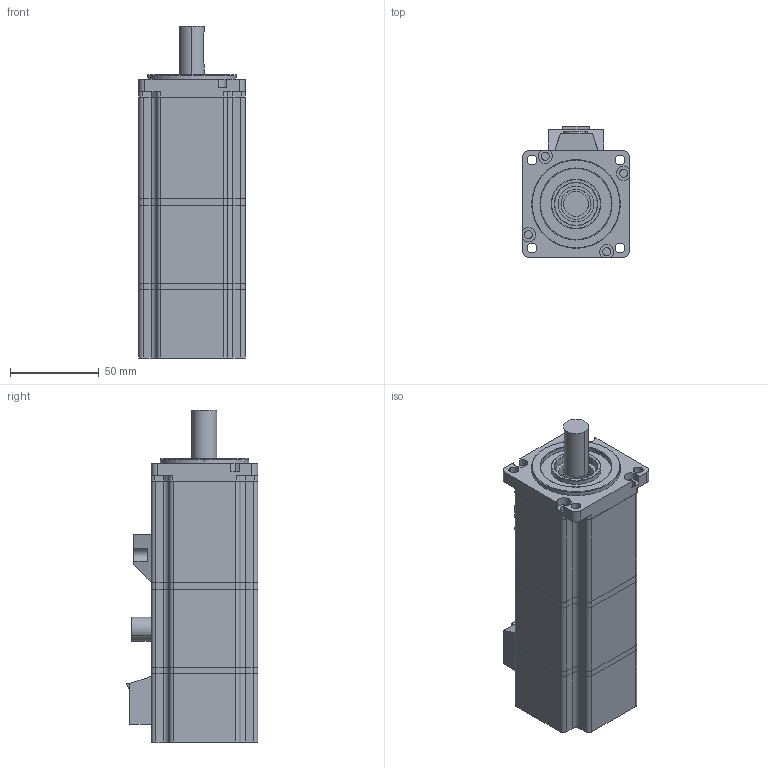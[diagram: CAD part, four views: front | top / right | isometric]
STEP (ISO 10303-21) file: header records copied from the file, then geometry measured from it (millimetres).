
FILE_DESCRIPTION (( 'STEP AP203' ), '1' );
FILE_NAME ('60-00630Z.STEP', '2020-03-08T12:38:44', ( '' ), ( '' ), 'SwSTEP 2.0', 'SolidWorks 2016', '' );
FILE_SCHEMA (( 'CONFIG_CONTROL_DESIGN' ));
Length unit declared in the file: millimetre
Products named in the file (11): 60晤鎢ん裔啣; 60ヶ裔; 60粣; 60晤鎢ん; 萇儂裔啣; 60-00630Z; 60綴裔; 60惕掅綴裔; 60惕掅儂褲; 60-0.6N隅赽; 惕掅芛
Assembly tree (10 placements, depth 2):
  60-00630Z
    60-0.6N隅赽
    60ヶ裔
    60綴裔
    60粣
    萇儂裔啣
    60晤鎢ん
    60晤鎢ん裔啣
    60惕掅綴裔
    60惕掅儂褲
    惕掅芛
Bounding box: 60 x 74 x 187 mm (x, y, z)
Volume: 277429.3 mm3; surface area: 99767.7 mm2
Topology: 13 solids, 13 shells, 391 faces, 1010 edges, 668 vertices
Faces by surface type: cylinder 223, plane 156, torus 8, cone 2, bspline 2
Entity records: 13483 total; most frequent: DIRECTION 2270, CARTESIAN_POINT 2148, ORIENTED_EDGE 2020, EDGE_CURVE 1010, AXIS2_PLACEMENT_3D 864, VERTEX_POINT 668, VECTOR 542, LINE 542
